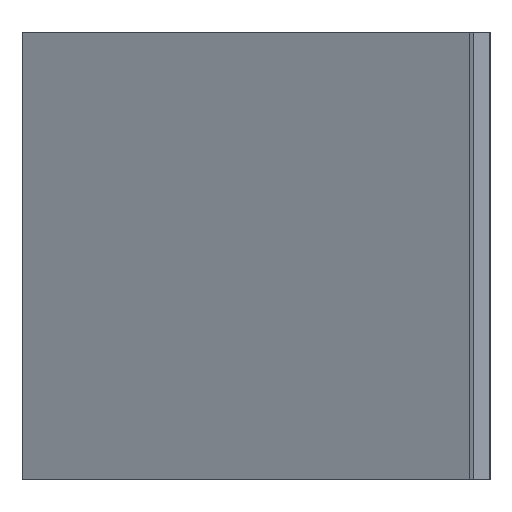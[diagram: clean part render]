
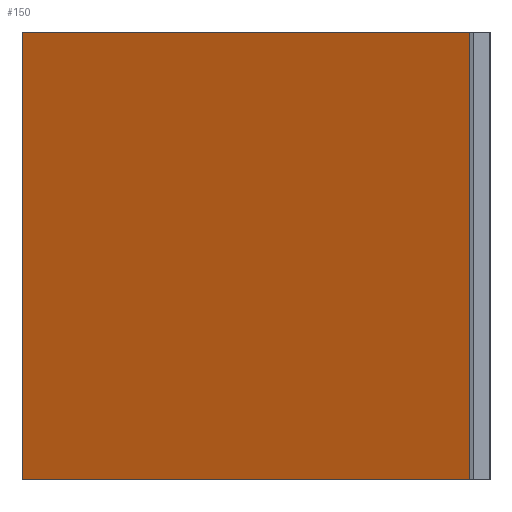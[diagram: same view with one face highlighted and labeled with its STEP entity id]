
A CAD part, left-side view. The second image highlights one B-rep face of the part: STEP entity #150.
In plain terms, the highlighted planar face has unit normal (0.915, -0.404, 0).
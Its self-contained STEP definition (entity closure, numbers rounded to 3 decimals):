
#98=CARTESIAN_POINT('Vertex',(20.,0.,0.)) ;
#101=CARTESIAN_POINT('Line Origine',(20.,0.,55.5)) ;
#105=CARTESIAN_POINT('Vertex',(20.,0.,111.)) ;
#120=CARTESIAN_POINT('Axis2P3D Location',(20.,0.,0.)) ;
#125=CARTESIAN_POINT('Line Origine',(44.5,55.5,0.)) ;
#129=CARTESIAN_POINT('Vertex',(69.,111.,0.)) ;
#132=CARTESIAN_POINT('Line Origine',(69.,111.,55.5)) ;
#136=CARTESIAN_POINT('Vertex',(69.,111.,111.)) ;
#139=CARTESIAN_POINT('Line Origine',(44.5,55.5,111.)) ;
#102=DIRECTION('Vector Direction',(0.,0.,1.)) ;
#121=DIRECTION('Axis2P3D Direction',(0.915,-0.404,0.)) ;
#122=DIRECTION('Axis2P3D XDirection',(0.404,0.915,0.)) ;
#126=DIRECTION('Vector Direction',(0.404,0.915,0.)) ;
#133=DIRECTION('Vector Direction',(0.,0.,1.)) ;
#140=DIRECTION('Vector Direction',(0.404,0.915,0.)) ;
#123=AXIS2_PLACEMENT_3D('Plane Axis2P3D',#120,#121,#122) ;
#145=ORIENTED_EDGE('',*,*,#107,.F.) ;
#146=ORIENTED_EDGE('',*,*,#131,.T.) ;
#147=ORIENTED_EDGE('',*,*,#138,.T.) ;
#148=ORIENTED_EDGE('',*,*,#143,.F.) ;
#103=VECTOR('Line Direction',#102,1.) ;
#127=VECTOR('Line Direction',#126,1.) ;
#134=VECTOR('Line Direction',#133,1.) ;
#141=VECTOR('Line Direction',#140,1.) ;
#150=ADVANCED_FACE('Extrude.1',(#149),#124,.T.) ;
#107=EDGE_CURVE('',#99,#106,#104,.T.) ;
#131=EDGE_CURVE('',#99,#130,#128,.T.) ;
#138=EDGE_CURVE('',#130,#137,#135,.T.) ;
#143=EDGE_CURVE('',#106,#137,#142,.T.) ;
#144=EDGE_LOOP('',(#145,#146,#147,#148)) ;
#149=FACE_OUTER_BOUND('',#144,.T.) ;
#104=LINE('Line',#101,#103) ;
#128=LINE('Line',#125,#127) ;
#135=LINE('Line',#132,#134) ;
#142=LINE('Line',#139,#141) ;
#124=PLANE('',#123) ;
#99=VERTEX_POINT('',#98) ;
#106=VERTEX_POINT('',#105) ;
#130=VERTEX_POINT('',#129) ;
#137=VERTEX_POINT('',#136) ;
